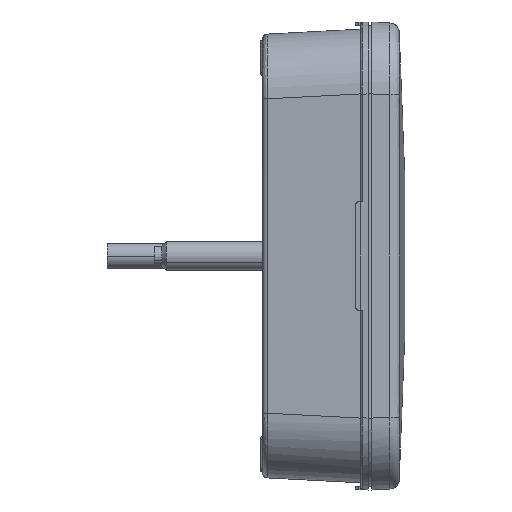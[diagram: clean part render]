
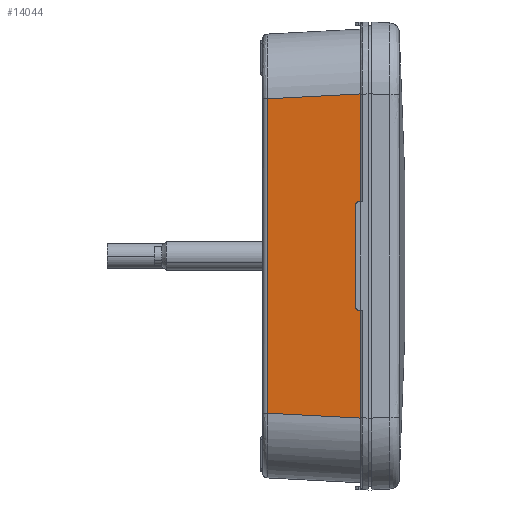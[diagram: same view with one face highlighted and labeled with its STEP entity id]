
A CAD part, front view. The second image highlights one B-rep face of the part: STEP entity #14044.
In plain terms, the highlighted planar face has unit normal (-0.052, -0.999, 0).
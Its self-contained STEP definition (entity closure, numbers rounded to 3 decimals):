
#14019=AXIS2_PLACEMENT_3D('Plane Axis2P3D',#14016,#14017,#14018) ;
#12704=CARTESIAN_POINT('Vertex',(-33.379,-293.144,43.668)) ;
#12764=CARTESIAN_POINT('Vertex',(-33.379,-293.144,-43.668)) ;
#12767=CARTESIAN_POINT('Line Origine',(-33.379,-293.144,-0.197)) ;
#14016=CARTESIAN_POINT('Axis2P3D Location',(-7.5,-294.5,0.)) ;
#14022=CARTESIAN_POINT('Control Point',(-33.379,-293.144,-43.668)) ;
#14023=CARTESIAN_POINT('Control Point',(-7.5,-294.5,-45.025)) ;
#14024=CARTESIAN_POINT('Vertex',(-7.5,-294.5,-45.025)) ;
#14027=CARTESIAN_POINT('Line Origine',(-7.5,-294.5,0.)) ;
#14031=CARTESIAN_POINT('Vertex',(-7.5,-294.5,45.025)) ;
#14035=CARTESIAN_POINT('Control Point',(-33.379,-293.144,43.668)) ;
#14036=CARTESIAN_POINT('Control Point',(-7.5,-294.5,45.025)) ;
#12768=DIRECTION('Vector Direction',(0.,0.,1.)) ;
#14017=DIRECTION('Axis2P3D Direction',(-0.052,-0.999,-0.)) ;
#14018=DIRECTION('Axis2P3D XDirection',(0.,0.,-1.)) ;
#14028=DIRECTION('Vector Direction',(0.,0.,-1.)) ;
#12769=VECTOR('Line Direction',#12768,1.) ;
#14029=VECTOR('Line Direction',#14028,1.) ;
#14039=ORIENTED_EDGE('',*,*,#14026,.T.) ;
#14040=ORIENTED_EDGE('',*,*,#14033,.F.) ;
#14041=ORIENTED_EDGE('',*,*,#14037,.F.) ;
#14042=ORIENTED_EDGE('',*,*,#12771,.F.) ;
#14044=ADVANCED_FACE('345900-01_FULL-LED_MFL.1',(#14043),#14020,.T.) ;
#14021=B_SPLINE_CURVE_WITH_KNOTS('',1,(#14022,#14023),.UNSPECIFIED.,.F.,.U.,(2,2),(-12.262,13.687),.UNSPECIFIED.) ;
#14034=B_SPLINE_CURVE_WITH_KNOTS('',1,(#14035,#14036),.UNSPECIFIED.,.F.,.U.,(2,2),(-12.262,13.687),.UNSPECIFIED.) ;
#12771=EDGE_CURVE('',#12765,#12705,#12770,.T.) ;
#14026=EDGE_CURVE('',#12765,#14025,#14021,.T.) ;
#14033=EDGE_CURVE('',#14032,#14025,#14030,.T.) ;
#14037=EDGE_CURVE('',#12705,#14032,#14034,.T.) ;
#14038=EDGE_LOOP('',(#14039,#14040,#14041,#14042)) ;
#14043=FACE_OUTER_BOUND('',#14038,.T.) ;
#12770=LINE('Line',#12767,#12769) ;
#14030=LINE('Line',#14027,#14029) ;
#14020=PLANE('',#14019) ;
#12705=VERTEX_POINT('',#12704) ;
#12765=VERTEX_POINT('',#12764) ;
#14025=VERTEX_POINT('',#14024) ;
#14032=VERTEX_POINT('',#14031) ;
